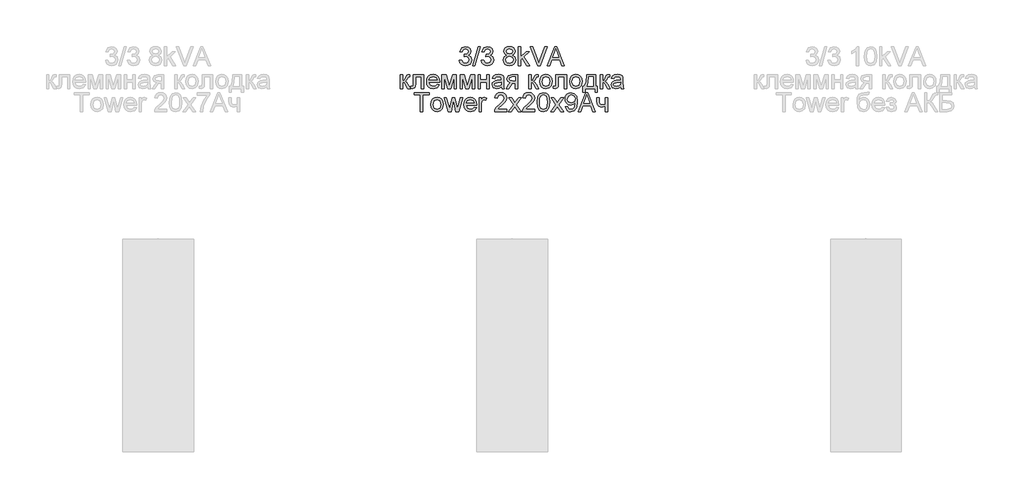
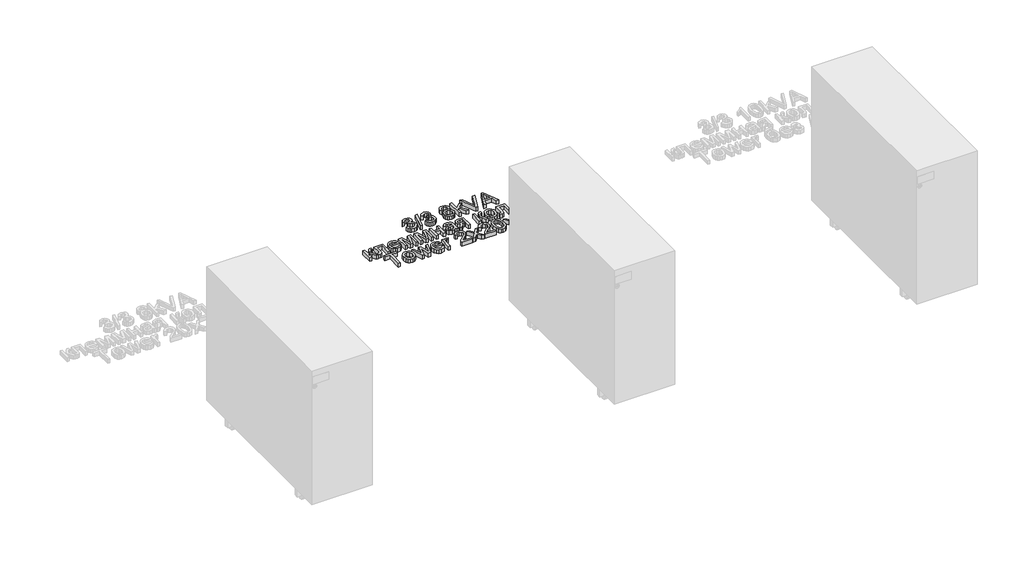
# One storey, part 21 of 74: 1 proxy.
"""IFC4 building model written with IfcOpenShell, lengths in millimetres."""

from ifc_helpers import new_model, si_unit, origin, origin_with_axes, place, context, project, spatial, polyline, outline, extrude, element, save

model = new_model("IFC4")

# Units and contexts
model_context = context("Model", 3, world=origin())
ifc_project = project(units=[si_unit("LENGTHUNIT", "METRE", prefix="MILLI")], contexts=[model_context])

# Site, building, storey
site = spatial("IfcSite", under=ifc_project)
building = spatial("IfcBuilding", under=site)
storey = spatial("IfcBuildingStorey", under=building, Name="Этаж 01", Elevation=0.0)

# Proxy
placement = place(None, origin())
element("IfcBuildingElementProxy", 1, Name="80 мм Arial", ObjectType="80 мм Arial", at=placement, inside=storey, context=model_context, shape_type="SweptSolid", body=[
    extrude(outline(polyline([(4129.0784863, -18752.4422861), (4139.1241174, -18751.1865822), (4144.6668727, -18761.7619633), (4155.0362399, -18764.9993249), (4167.240112, -18760.5455002), (4171.7724182, -18749.5188505), (4167.2793527, -18739.129863), (4155.8602956, -18735.0193948), (4148.8165817, -18736.1181357), (4149.9349429, -18726.0725047), (4151.5438135, -18726.1902269), (4162.9432503, -18723.3060321), (4168.0053065, -18714.4376235), (4164.3362968, -18706.5796641), (4154.8792769, -18703.4698349), (4145.3045349, -18706.6090946), (4140.3798212, -18716.0268737), (4130.3341902, -18714.7711698), (4138.5551265, -18699.0160102), (4154.5261102, -18693.4242039), (4166.6416906, -18696.1808663), (4175.1176918, -18703.7150896), (4178.0509375, -18713.8490123), (4175.2648446, -18723.1098284), (4167.0242879, -18729.7611348), (4177.972456, -18736.6282654), (4181.8180492, -18749.6954339), (4179.8952526, -18759.4860001), (4174.1268629, -18767.6676956), (4165.4203224, -18773.2006408), (4154.6830732, -18775.0449559), (4144.9709885, -18773.470421), (4137.0639782, -18768.7468161), (4131.5653686, -18761.5216138), (4129.0784863, -18752.4422861)])), origin_with_axes(), (0.0, 0.0, 1.0), 20.0),
    extrude(outline(polyline([(4185.5851608, -18773.789252), (4208.1878306, -18693.4242039), (4217.2524429, -18693.4242039), (4194.6497732, -18773.789252), (4185.5851608, -18773.789252)])), origin_with_axes(), (0.0, 0.0, 1.0), 20.0),
    extrude(outline(polyline([(4222.0005732, -18752.4422861), (4232.0462042, -18751.1865822), (4237.5889596, -18761.7619633), (4247.9583268, -18764.9993249), (4260.1621989, -18760.5455002), (4264.694505, -18749.5188505), (4260.2014396, -18739.129863), (4248.7823825, -18735.0193948), (4241.7386685, -18736.1181357), (4242.8570298, -18726.0725047), (4244.4659004, -18726.1902269), (4255.8653372, -18723.3060321), (4260.9273934, -18714.4376235), (4257.2583836, -18706.5796641), (4247.8013638, -18703.4698349), (4238.2266218, -18706.6090946), (4233.3019081, -18716.0268737), (4223.2562771, -18714.7711698), (4231.4772134, -18699.0160102), (4247.4481971, -18693.4242039), (4259.5637775, -18696.1808663), (4268.0397787, -18703.7150896), (4270.9730244, -18713.8490123), (4268.1869314, -18723.1098284), (4259.9463748, -18729.7611348), (4270.8945429, -18736.6282654), (4274.7401361, -18749.6954339), (4272.8173395, -18759.4860001), (4267.0489498, -18767.6676956), (4258.3424093, -18773.2006408), (4247.6051601, -18775.0449559), (4237.8930754, -18773.470421), (4229.9860651, -18768.7468161), (4224.4874555, -18761.5216138), (4222.0005732, -18752.4422861)])), origin_with_axes(), (0.0, 0.0, 1.0), 20.0),
    extrude(outline(polyline([(4329.5594584, -18729.5256904), (4320.4065544, -18723.2864117), (4317.4340679, -18713.5743271), (4319.0527486, -18705.7212727), (4323.908791, -18699.2318343), (4331.4577295, -18694.8761115), (4341.1550989, -18693.4242039), (4350.9113294, -18694.9104472), (4358.5583698, -18699.3691769), (4363.5027039, -18705.9616223), (4365.1508152, -18713.8490123), (4362.2175694, -18723.3158423), (4353.3197302, -18729.5256904), (4364.0030234, -18737.4032702), (4367.6622229, -18750.4017673), (4365.8473384, -18760.0059399), (4360.4026849, -18767.9423808), (4351.995355, -18773.2693121), (4341.2924415, -18775.0449559), (4330.589528, -18773.2619545), (4322.1821982, -18767.9129503), (4316.7375446, -18759.9004804), (4314.9226601, -18750.1270821), (4318.7290125, -18736.8244692), (4329.5594584, -18729.5256904)]), holes=[polyline([(4327.4796989, -18713.8686327), (4331.0407966, -18721.7560226), (4341.4101638, -18724.8168008), (4351.573517, -18721.775643), (4355.1051842, -18714.3199012), (4351.4557948, -18706.5992844), (4341.2924415, -18703.4698349), (4331.0996577, -18706.5306131), (4327.4796989, -18713.8686327)]), polyline([(4324.9682911, -18749.7739154), (4326.645833, -18757.3375692), (4332.5809959, -18762.9980468), (4341.370923, -18764.9993249), (4353.3393506, -18760.7907549), (4357.6165919, -18750.0878413), (4353.202008, -18739.1789139), (4341.0373767, -18734.8624318), (4329.2161019, -18739.1200528), (4324.9682911, -18749.7739154)])]), origin_with_axes(), (0.0, 0.0, 1.0), 20.0),
    extrude(outline(polyline([(4378.9635578, -18773.789252), (4378.9635578, -18693.4242039), (4389.0091889, -18693.4242039), (4389.0091889, -18736.608645), (4411.5333771, -18714.7711698), (4425.4246013, -18714.7711698), (4402.6257278, -18736.8833303), (4426.6803052, -18773.789252), (4414.9473221, -18773.789252), (4395.4250508, -18743.8681831), (4389.0091889, -18750.0878413), (4389.0091889, -18773.789252), (4378.9635578, -18773.789252)])), origin_with_axes(), (0.0, 0.0, 1.0), 20.0),
    extrude(outline(polyline([(4460.4665876, -18773.789252), (4428.4853795, -18693.4242039), (4439.2373439, -18693.4242039), (4460.643171, -18751.3239249), (4464.9792734, -18764.3714729), (4469.2565147, -18751.3239249), (4490.7212029, -18693.4242039), (4501.4731673, -18693.4242039), (4470.845765, -18773.789252), (4460.4665876, -18773.789252)])), origin_with_axes(), (0.0, 0.0, 1.0), 20.0),
    extrude(outline(polyline([(4501.453547, -18773.789252), (4533.5328569, -18693.4242039), (4542.0873396, -18693.4242039), (4574.1666496, -18773.789252), (4563.5520277, -18773.789252), (4554.3500728, -18748.6751745), (4521.2505034, -18748.6751745), (4512.0681688, -18773.789252), (4501.453547, -18773.789252)]), holes=[polyline([(4524.9391335, -18738.6295435), (4550.681063, -18738.6295435), (4543.4411453, -18718.8718278), (4537.8100983, -18703.4698349), (4532.8069031, -18717.145235), (4524.9391335, -18738.6295435)])]), origin_with_axes(), (0.0, 0.0, 1.0), 20.0),
    extrude(outline(polyline([(3879.1934148, -18812.3510241), (3889.2390459, -18812.3510241), (3889.2390459, -18837.4651016), (3895.9688338, -18835.6600273), (3901.4821587, -18825.1435073), (3906.0635158, -18816.0690848), (3910.1053126, -18813.1162186), (3917.4531423, -18812.3510241), (3919.3759389, -18812.3510241), (3919.3759389, -18822.4555162), (3916.6683274, -18822.3966551), (3911.7632341, -18823.4561553), (3908.3100485, -18830.068221), (3904.2584414, -18837.219847), (3898.5783434, -18840.7220836), (3904.9157239, -18844.6314429), (3911.1353822, -18852.8670945), (3921.8873467, -18871.3691063), (3910.4682895, -18871.3691063), (3899.9321492, -18853.259502), (3894.6346485, -18845.5977463), (3889.2390459, -18843.743621), (3889.2390459, -18871.3691063), (3879.1934148, -18871.3691063), (3879.1934148, -18812.3510241)])), origin_with_axes(), (0.0, 0.0, 1.0), 20.0),
    extrude(outline(polyline([(3933.1886815, -18812.3510241), (3978.3940211, -18812.3510241), (3978.3940211, -18871.3102452), (3968.3483901, -18871.3102452), (3968.3483901, -18822.3966551), (3943.2343126, -18822.3966551), (3943.2343126, -18850.5518905), (3942.5574097, -18863.5405774), (3938.839349, -18869.0244717), (3930.0494219, -18871.3691063), (3921.8873467, -18870.8589766), (3921.8873467, -18861.3234753), (3926.3804121, -18861.3234753), (3930.9225285, -18860.7054335), (3932.737413, -18858.7433962), (3933.1886815, -18849.9828996), (3933.1886815, -18812.3510241)])), origin_with_axes(), (0.0, 0.0, 1.0), 20.0),
    extrude(outline(polyline([(4034.7829733, -18853.789252), (4044.6324006, -18855.0449559), (4035.4206355, -18868.0140225), (4018.2626192, -18872.6248102), (4006.4756801, -18870.6357949), (3997.4061626, -18864.6687489), (3991.6230577, -18855.1111747), (3989.695356, -18842.3505745), (3991.642678, -18829.1607787), (3997.4846441, -18819.2966362), (4006.4315342, -18813.1456492), (4017.6936284, -18811.0953202), (4028.6050084, -18813.1407441), (4037.3238116, -18819.2770158), (4043.0406979, -18829.121538), (4044.9463266, -18842.2917134), (4044.8874655, -18844.9993249), (3999.740987, -18844.9993249), (4005.5191869, -18858.046873), (4018.4588229, -18862.5791792), (4028.3082502, -18860.4797992), (4034.7829733, -18853.789252)]), holes=[polyline([(3999.740987, -18834.9536939), (4034.9006956, -18834.9536939), (4030.8785191, -18825.8498408), (4017.6543876, -18821.1409512), (4005.2837424, -18824.8982527), (3999.740987, -18834.9536939)])]), origin_with_axes(), (0.0, 0.0, 1.0), 20.0),
    extrude(outline(polyline([(4054.9919576, -18812.3510241), (4072.2775063, -18812.3510241), (4085.5997396, -18859.5968825), (4099.9618527, -18812.3510241), (4116.5214476, -18812.3510241), (4116.5214476, -18871.3691063), (4106.4758166, -18871.3691063), (4106.4758166, -18823.8485627), (4092.035222, -18871.3691063), (4078.8503313, -18871.3691063), (4065.0375886, -18821.5725994), (4065.0375886, -18871.3691063), (4054.9919576, -18871.3691063), (4054.9919576, -18812.3510241)])), origin_with_axes(), (0.0, 0.0, 1.0), 20.0),
    extrude(outline(polyline([(4131.5898941, -18812.3510241), (4148.8754428, -18812.3510241), (4162.1976761, -18859.5968825), (4176.5597892, -18812.3510241), (4193.1193841, -18812.3510241), (4193.1193841, -18871.3691063), (4183.073753, -18871.3691063), (4183.073753, -18823.8485627), (4168.6331585, -18871.3691063), (4155.4482678, -18871.3691063), (4141.6355251, -18821.5725994), (4141.6355251, -18871.3691063), (4131.5898941, -18871.3691063), (4131.5898941, -18812.3510241)])), origin_with_axes(), (0.0, 0.0, 1.0), 20.0),
    extrude(outline(polyline([(4208.1878306, -18812.3510241), (4218.2334616, -18812.3510241), (4218.2334616, -18834.9536939), (4244.603243, -18834.9536939), (4244.603243, -18812.3510241), (4254.648874, -18812.3510241), (4254.648874, -18871.3691063), (4244.603243, -18871.3691063), (4244.603243, -18844.9993249), (4218.2334616, -18844.9993249), (4218.2334616, -18871.3691063), (4208.1878306, -18871.3691063), (4208.1878306, -18812.3510241)])), origin_with_axes(), (0.0, 0.0, 1.0), 20.0),
    extrude(outline(polyline([(4307.3884369, -18863.834883), (4297.6469216, -18870.6431525), (4286.885147, -18872.6248102), (4272.2973996, -18867.8570595), (4267.2059128, -18855.6728078), (4269.1287094, -18847.7265567), (4274.1809554, -18841.9581671), (4281.2148592, -18838.6619444), (4289.9066844, -18837.1511757), (4307.3295757, -18833.69799), (4307.3884369, -18831.4612675), (4304.6219643, -18824.0447664), (4293.5168331, -18821.1409512), (4283.3534798, -18823.073558), (4278.5072477, -18829.9308784), (4268.4616167, -18828.6751745), (4272.8075293, -18818.864988), (4281.5582157, -18813.1162186), (4294.8117777, -18811.0953202), (4306.9862192, -18812.8807742), (4313.86316, -18817.3640294), (4316.9435585, -18824.1821091), (4317.4340679, -18832.9720362), (4317.4340679, -18845.4702138), (4317.9441976, -18862.9225357), (4319.9454756, -18871.3691063), (4309.8998446, -18871.3691063), (4307.3884369, -18863.834883)]), holes=[polyline([(4307.3884369, -18843.743621), (4291.1820087, -18846.8240196), (4282.5392344, -18848.4525105), (4278.6249699, -18851.1012609), (4277.2515438, -18854.9664744), (4280.2436507, -18860.4013178), (4289.0237677, -18862.5791792), (4299.1871209, -18860.1756835), (4305.7403255, -18854.3582428), (4307.3295757, -18846.5885751), (4307.3884369, -18843.743621)])]), origin_with_axes(), (0.0, 0.0, 1.0), 20.0),
    extrude(outline(polyline([(4376.4521501, -18812.3510241), (4376.4521501, -18871.3691063), (4366.4065191, -18871.3691063), (4366.4065191, -18848.7664365), (4360.932435, -18848.7664365), (4353.4766932, -18850.0417608), (4346.47222, -18858.6158638), (4338.4671078, -18871.3691063), (4326.8518469, -18871.3691063), (4336.9367187, -18855.2411596), (4345.4912014, -18846.8828807), (4333.797459, -18840.7809447), (4329.9911066, -18829.4011283), (4335.1905055, -18817.079534), (4350.2393317, -18812.3510241), (4376.4521501, -18812.3510241)]), holes=[polyline([(4366.4065191, -18822.3966551), (4353.1627672, -18822.3966551), (4342.4402334, -18824.7216693), (4340.0367377, -18830.1663228), (4343.578215, -18836.6508561), (4356.1254436, -18838.7208055), (4366.4065191, -18838.7208055), (4366.4065191, -18822.3966551)])]), origin_with_axes(), (0.0, 0.0, 1.0), 20.0),
    extrude(outline(polyline([(4422.9131935, -18812.3510241), (4432.9588245, -18812.3510241), (4432.9588245, -18837.4651016), (4439.6886125, -18835.6600273), (4445.2019373, -18825.1435073), (4449.7832945, -18816.0690848), (4453.8250913, -18813.1162186), (4461.172921, -18812.3510241), (4463.0957176, -18812.3510241), (4463.0957176, -18822.4555162), (4460.3881061, -18822.3966551), (4455.4830128, -18823.4561553), (4452.0298272, -18830.068221), (4447.9782201, -18837.219847), (4442.2981221, -18840.7220836), (4448.6355026, -18844.6314429), (4454.8551609, -18852.8670945), (4465.6071253, -18871.3691063), (4454.1880682, -18871.3691063), (4443.6519279, -18853.259502), (4438.3544271, -18845.5977463), (4432.9588245, -18843.743621), (4432.9588245, -18871.3691063), (4422.9131935, -18871.3691063), (4422.9131935, -18812.3510241)])), origin_with_axes(), (0.0, 0.0, 1.0), 20.0),
    extrude(outline(polyline([(4469.374237, -18841.8600652), (4471.5471933, -18827.6303896), (4478.0660622, -18817.6289044), (4486.1202254, -18812.7287163), (4495.7636388, -18811.0953202), (4506.3169469, -18813.0843355), (4514.7463497, -18819.0513815), (4520.2719373, -18828.5255691), (4522.1137998, -18841.0360095), (4518.8568179, -18858.9101694), (4509.3703675, -18869.0244717), (4495.7636388, -18872.6248102), (4485.0827982, -18870.6431525), (4476.6632056, -18864.6981795), (4471.1964791, -18855.0253355), (4469.374237, -18841.8600652)]), holes=[polyline([(4479.419868, -18841.8404448), (4484.0698964, -18857.4092109), (4495.7636388, -18862.5791792), (4507.4181404, -18857.3797803), (4512.0681688, -18841.5265189), (4507.3887098, -18826.3109195), (4495.7636388, -18821.1409512), (4484.0698964, -18826.2912992), (4479.419868, -18841.8404448)])]), origin_with_axes(), (0.0, 0.0, 1.0), 20.0),
    extrude(outline(polyline([(4538.4379502, -18812.3510241), (4583.6432898, -18812.3510241), (4583.6432898, -18871.3102452), (4573.5976588, -18871.3102452), (4573.5976588, -18822.3966551), (4548.4835812, -18822.3966551), (4548.4835812, -18850.5518905), (4547.8066783, -18863.5405774), (4544.0886176, -18869.0244717), (4535.2986905, -18871.3691063), (4527.1366153, -18870.8589766), (4527.1366153, -18861.3234753), (4531.6296807, -18861.3234753), (4536.1717971, -18860.7054335), (4537.9866816, -18858.7433962), (4538.4379502, -18849.9828996), (4538.4379502, -18812.3510241)])), origin_with_axes(), (0.0, 0.0, 1.0), 20.0),
    extrude(outline(polyline([(4596.2003285, -18841.8600652), (4598.3732849, -18827.6303896), (4604.8921538, -18817.6289044), (4612.946317, -18812.7287163), (4622.5897303, -18811.0953202), (4633.1430385, -18813.0843355), (4641.5724413, -18819.0513815), (4647.0980288, -18828.5255691), (4648.9398914, -18841.0360095), (4645.6829094, -18858.9101694), (4636.1964591, -18869.0244717), (4622.5897303, -18872.6248102), (4611.9088897, -18870.6431525), (4603.4892971, -18864.6981795), (4598.0225707, -18855.0253355), (4596.2003285, -18841.8600652)]), holes=[polyline([(4606.2459596, -18841.8404448), (4610.895988, -18857.4092109), (4622.5897303, -18862.5791792), (4634.2442319, -18857.3797803), (4638.8942603, -18841.5265189), (4634.2148014, -18826.3109195), (4622.5897303, -18821.1409512), (4610.895988, -18826.2912992), (4606.2459596, -18841.8404448)])]), origin_with_axes(), (0.0, 0.0, 1.0), 20.0),
    extrude(outline(polyline([(4669.0311534, -18812.3510241), (4706.7022697, -18812.3510241), (4706.7022697, -18861.3234753), (4714.236493, -18861.3234753), (4714.236493, -18887.6932567), (4704.1908619, -18887.6932567), (4704.1908619, -18871.3691063), (4662.752634, -18871.3691063), (4662.752634, -18887.6932567), (4652.707003, -18887.6932567), (4652.707003, -18861.3234753), (4658.9855224, -18861.3234753), (4666.7453799, -18842.164181), (4669.0311534, -18812.3510241)]), holes=[polyline([(4677.8210805, -18822.3966551), (4675.4666358, -18845.2838203), (4670.2868573, -18861.3234753), (4696.6566387, -18861.3234753), (4696.6566387, -18822.3966551), (4677.8210805, -18822.3966551)])]), origin_with_axes(), (0.0, 0.0, 1.0), 20.0),
    extrude(outline(polyline([(4725.5378279, -18812.3510241), (4735.5834589, -18812.3510241), (4735.5834589, -18837.4651016), (4742.3132468, -18835.6600273), (4747.8265717, -18825.1435073), (4752.4079288, -18816.0690848), (4756.4497256, -18813.1162186), (4763.7975554, -18812.3510241), (4765.7203519, -18812.3510241), (4765.7203519, -18822.4555162), (4763.0127404, -18822.3966551), (4758.1076472, -18823.4561553), (4754.6544615, -18830.068221), (4750.6028545, -18837.219847), (4744.9227565, -18840.7220836), (4751.260137, -18844.6314429), (4757.4797952, -18852.8670945), (4768.2317597, -18871.3691063), (4756.8127025, -18871.3691063), (4746.2765622, -18853.259502), (4740.9790615, -18845.5977463), (4735.5834589, -18843.743621), (4735.5834589, -18871.3691063), (4725.5378279, -18871.3691063), (4725.5378279, -18812.3510241)])), origin_with_axes(), (0.0, 0.0, 1.0), 20.0),
    extrude(outline(polyline([(4812.1813954, -18863.834883), (4802.4398801, -18870.6431525), (4791.6781055, -18872.6248102), (4777.0903581, -18867.8570595), (4771.9988713, -18855.6728078), (4773.9216679, -18847.7265567), (4778.9739139, -18841.9581671), (4786.0078177, -18838.6619444), (4794.6996429, -18837.1511757), (4812.1225342, -18833.69799), (4812.1813954, -18831.4612675), (4809.4149228, -18824.0447664), (4798.3097916, -18821.1409512), (4788.1464383, -18823.073558), (4783.3002062, -18829.9308784), (4773.2545752, -18828.6751745), (4777.6004878, -18818.864988), (4786.3511742, -18813.1162186), (4799.6047362, -18811.0953202), (4811.7791777, -18812.8807742), (4818.6561185, -18817.3640294), (4821.736517, -18824.1821091), (4822.2270264, -18832.9720362), (4822.2270264, -18845.4702138), (4822.7371561, -18862.9225357), (4824.7384341, -18871.3691063), (4814.6928031, -18871.3691063), (4812.1813954, -18863.834883)]), holes=[polyline([(4812.1813954, -18843.743621), (4795.9749672, -18846.8240196), (4787.3321929, -18848.4525105), (4783.4179284, -18851.1012609), (4782.0445023, -18854.9664744), (4785.0366092, -18860.4013178), (4793.8167262, -18862.5791792), (4803.9800794, -18860.1756835), (4810.533284, -18854.3582428), (4812.1225342, -18846.5885751), (4812.1813954, -18843.743621)])]), origin_with_axes(), (0.0, 0.0, 1.0), 20.0),
    extrude(outline(polyline([(3963.9534265, -18968.9489606), (3963.9534265, -18898.6295435), (3937.5836451, -18898.6295435), (3937.5836451, -18888.5839125), (4000.368839, -18888.5839125), (4000.368839, -18898.6295435), (3973.9990575, -18898.6295435), (3973.9990575, -18968.9489606), (3963.9534265, -18968.9489606)])), origin_with_axes(), (0.0, 0.0, 1.0), 20.0),
    extrude(outline(polyline([(4007.9030622, -18939.4399195), (4010.0760185, -18925.2102439), (4016.5948875, -18915.2087587), (4024.6490506, -18910.3085705), (4034.292464, -18908.6751745), (4044.8457722, -18910.6641898), (4053.275175, -18916.6312358), (4058.8007625, -18926.1054234), (4060.6426251, -18938.6158638), (4057.3856431, -18956.4900237), (4047.8991927, -18966.604326), (4034.292464, -18970.2046645), (4023.6116234, -18968.2230068), (4015.1920308, -18962.2780337), (4009.7253044, -18952.6051898), (4007.9030622, -18939.4399195)]), holes=[polyline([(4017.9486932, -18939.4202991), (4022.5987217, -18954.9890651), (4034.292464, -18960.1590334), (4045.9469656, -18954.9596346), (4050.596994, -18939.1063731), (4045.9175351, -18923.8907738), (4034.292464, -18918.7208055), (4022.5987217, -18923.8711534), (4017.9486932, -18939.4202991)])]), origin_with_axes(), (0.0, 0.0, 1.0), 20.0),
    extrude(outline(polyline([(4081.7345261, -18968.9489606), (4063.7818847, -18909.9308784), (4074.2199232, -18909.9308784), (4084.4028968, -18944.3646331), (4087.4440547, -18956.666607), (4089.9358421, -18944.8159017), (4098.0390561, -18909.9308784), (4110.0074837, -18909.9308784), (4118.071457, -18944.7177998), (4120.2885592, -18955.4501439), (4123.4670596, -18944.1291886), (4133.6696536, -18909.9308784), (4144.1469329, -18909.9308784), (4126.0569489, -18968.9489606), (4113.911938, -18968.9489606), (4106.2011313, -18934.3386225), (4103.9644088, -18923.5474173), (4094.0168797, -18968.9489606), (4081.7345261, -18968.9489606)])), origin_with_axes(), (0.0, 0.0, 1.0), 20.0),
    extrude(outline(polyline([(4192.3738099, -18951.3691063), (4202.2232372, -18952.6248102), (4193.011472, -18965.5938768), (4175.8534558, -18970.2046645), (4164.0665166, -18968.2156491), (4154.9969992, -18962.2486032), (4149.2138942, -18952.6910289), (4147.2861926, -18939.9304288), (4149.2335146, -18926.740633), (4155.0754807, -18916.8764904), (4164.0223708, -18910.7255035), (4175.2844649, -18908.6751745), (4186.1958449, -18910.7205984), (4194.9146482, -18916.8568701), (4200.6315344, -18926.7013923), (4202.5371631, -18939.8715677), (4202.478302, -18942.5791792), (4157.3318236, -18942.5791792), (4163.1100234, -18955.6267273), (4176.0496595, -18960.1590334), (4185.8990868, -18958.0596535), (4192.3738099, -18951.3691063)]), holes=[polyline([(4157.3318236, -18932.5335481), (4192.4915321, -18932.5335481), (4188.4693556, -18923.429695), (4175.2452242, -18918.7208055), (4162.874579, -18922.4781069), (4157.3318236, -18932.5335481)])]), origin_with_axes(), (0.0, 0.0, 1.0), 20.0),
    extrude(outline(polyline([(4212.5827942, -18968.9489606), (4212.5827942, -18909.9308784), (4221.3727213, -18909.9308784), (4221.3727213, -18918.6619444), (4227.6119999, -18910.6175914), (4233.8905193, -18908.6751745), (4243.9753911, -18911.7751934), (4240.6203073, -18920.7809447), (4233.556973, -18918.7208055), (4227.876875, -18920.7024632), (4224.2569161, -18926.1961676), (4222.6284252, -18937.9291507), (4222.6284252, -18968.9489606), (4212.5827942, -18968.9489606)])), origin_with_axes(), (0.0, 0.0, 1.0), 20.0),
    extrude(outline(polyline([(4330.6189586, -18958.9033296), (4330.6189586, -18968.9489606), (4277.8793957, -18968.9489606), (4278.9585163, -18962.0229689), (4285.0604523, -18951.3592961), (4297.6371114, -18939.7146047), (4314.9815212, -18922.9784265), (4319.3176237, -18911.5986101), (4315.2267759, -18902.3868449), (4304.5434828, -18898.6295435), (4293.408921, -18902.2985532), (4289.1807306, -18912.4422861), (4279.1350996, -18911.1865822), (4281.5704784, -18901.4695925), (4286.8360961, -18894.3719225), (4294.6572673, -18890.030915), (4304.7593069, -18888.5839125), (4314.9349228, -18890.1927831), (4322.7413788, -18895.0193948), (4327.7077857, -18902.2298819), (4329.3632547, -18910.9903785), (4327.5778008, -18920.5160696), (4321.6426379, -18930.3654969), (4307.2510942, -18944.1291886), (4295.6946945, -18953.7922224), (4291.1623883, -18958.9033296), (4330.6189586, -18958.9033296)])), origin_with_axes(), (0.0, 0.0, 1.0), 20.0),
    extrude(outline(polyline([(4336.897478, -18968.9489606), (4358.3621661, -18939.2829565), (4338.1531818, -18909.9308784), (4350.2393317, -18909.9308784), (4359.9906571, -18924.057547), (4364.5425836, -18930.7284738), (4368.4862786, -18925.2740101), (4379.5914098, -18909.9308784), (4391.6775596, -18909.9308784), (4370.4483159, -18939.2829565), (4390.8927447, -18968.9489606), (4378.8065949, -18968.9489606), (4366.5046209, -18951.1140415), (4364.248278, -18947.8570595), (4348.9836278, -18968.9489606), (4336.897478, -18968.9489606)])), origin_with_axes(), (0.0, 0.0, 1.0), 20.0),
    extrude(outline(polyline([(4448.655123, -18958.9033296), (4448.655123, -18968.9489606), (4395.9155602, -18968.9489606), (4396.9946807, -18962.0229689), (4403.0966167, -18951.3592961), (4415.6732759, -18939.7146047), (4433.0176857, -18922.9784265), (4437.3537881, -18911.5986101), (4433.2629403, -18902.3868449), (4422.5796472, -18898.6295435), (4411.4450855, -18902.2985532), (4407.2168951, -18912.4422861), (4397.1712641, -18911.1865822), (4399.6066429, -18901.4695925), (4404.8722605, -18894.3719225), (4412.6934317, -18890.030915), (4422.7954713, -18888.5839125), (4432.9710873, -18890.1927831), (4440.7775432, -18895.0193948), (4445.7439501, -18902.2298819), (4447.3994191, -18910.9903785), (4445.6139652, -18920.5160696), (4439.6788023, -18930.3654969), (4425.2872587, -18944.1291886), (4413.7308589, -18953.7922224), (4409.1985527, -18958.9033296), (4448.655123, -18958.9033296)])), origin_with_axes(), (0.0, 0.0, 1.0), 20.0),
    extrude(outline(polyline([(4458.700754, -18929.4139088), (4461.6536202, -18906.2912992), (4470.4239269, -18892.9592557), (4485.0705354, -18888.5839125), (4496.8035185, -18891.1738017), (4504.9067326, -18898.6393537), (4509.6156222, -18910.5292997), (4511.4403168, -18929.4139088), (4508.5168813, -18952.4384166), (4499.7760051, -18965.7998907), (4485.0705354, -18970.2046645), (4474.632497, -18968.2916781), (4466.7058662, -18962.552719), (4460.7020321, -18948.9607055), (4458.700754, -18929.4139088)]), holes=[polyline([(4468.746385, -18929.3942885), (4469.9236074, -18945.1960464), (4473.4552746, -18954.3415928), (4485.0705354, -18960.1590334), (4496.6857963, -18954.3219724), (4500.2174634, -18945.171521), (4501.3946858, -18929.3942885), (4500.2567042, -18913.9481498), (4496.8427593, -18904.7314795), (4491.5943095, -18900.1550275), (4484.9528132, -18898.6295435), (4473.6122376, -18904.0055257), (4469.9628482, -18913.7960919), (4468.746385, -18929.3942885)])]), origin_with_axes(), (0.0, 0.0, 1.0), 20.0),
    extrude(outline(polyline([(4516.4631324, -18968.9489606), (4537.9278205, -18939.2829565), (4517.7188362, -18909.9308784), (4529.804986, -18909.9308784), (4539.5563115, -18924.057547), (4544.108238, -18930.7284738), (4548.051933, -18925.2740101), (4559.1570642, -18909.9308784), (4571.243214, -18909.9308784), (4550.0139703, -18939.2829565), (4570.4583991, -18968.9489606), (4558.3722492, -18968.9489606), (4546.0702753, -18951.1140415), (4543.8139324, -18947.8570595), (4528.5492822, -18968.9489606), (4516.4631324, -18968.9489606)])), origin_with_axes(), (0.0, 0.0, 1.0), 20.0),
    extrude(outline(polyline([(4577.9926223, -18948.8576985), (4588.0382533, -18947.6019947), (4592.5509391, -18957.1865469), (4601.1054218, -18960.1590334), (4609.2380664, -18958.2460471), (4614.7513913, -18953.1349399), (4618.0378038, -18944.4038739), (4619.4897114, -18932.7493723), (4619.4308503, -18930.7873349), (4611.3963075, -18938.4000397), (4600.379468, -18941.3234753), (4591.2192063, -18939.5380213), (4583.5942388, -18934.1816595), (4578.4512485, -18925.9067671), (4576.7369184, -18915.3657217), (4578.5346351, -18904.4764147), (4583.9277852, -18895.9415524), (4592.0285467, -18890.4233224), (4601.9490978, -18888.5839125), (4616.26216, -18892.7826723), (4626.1115873, -18904.7510999), (4629.4764813, -18927.2360474), (4626.1213975, -18951.6339813), (4616.1444378, -18965.4565342), (4600.6345329, -18970.2046645), (4592.0457145, -18968.8042603), (4585.1932992, -18964.6030479), (4577.9926223, -18948.8576985)]), holes=[polyline([(4619.4308503, -18915.1302772), (4615.0947478, -18903.0833682), (4603.5775888, -18898.6295435), (4591.491439, -18903.4267247), (4586.7825495, -18915.856231), (4591.2363741, -18926.9907928), (4603.3029036, -18931.2778443), (4614.8887339, -18926.9907928), (4619.4308503, -18915.1302772)])]), origin_with_axes(), (0.0, 0.0, 1.0), 20.0),
    extrude(outline(polyline([(4632.6746021, -18968.9489606), (4664.7539121, -18888.5839125), (4673.3083947, -18888.5839125), (4705.3877047, -18968.9489606), (4694.7730829, -18968.9489606), (4685.5711279, -18943.834883), (4652.4715585, -18943.834883), (4643.2892239, -18968.9489606), (4632.6746021, -18968.9489606)]), holes=[polyline([(4656.1601887, -18933.789252), (4681.9021181, -18933.789252), (4674.6622005, -18914.0315363), (4669.0311534, -18898.6295435), (4664.0279583, -18912.3049435), (4656.1601887, -18933.789252)])]), origin_with_axes(), (0.0, 0.0, 1.0), 20.0),
    extrude(outline(polyline([(4711.0972333, -18909.9308784), (4721.1428643, -18909.9308784), (4721.1428643, -18921.2518336), (4721.9571098, -18931.8664555), (4725.8713742, -18937.6152248), (4733.6410419, -18940.0677714), (4747.5126457, -18937.0266136), (4747.5126457, -18909.9308784), (4757.5582767, -18909.9308784), (4757.5582767, -18968.9489606), (4747.5126457, -18968.9489606), (4747.5126457, -18946.6602168), (4730.9530508, -18950.1134024), (4719.5634243, -18946.513064), (4712.8630668, -18937.6937063), (4711.0972333, -18926.215788), (4711.0972333, -18909.9308784)])), origin_with_axes(), (0.0, 0.0, 1.0), 20.0),
])

save(model, "model.ifc")
